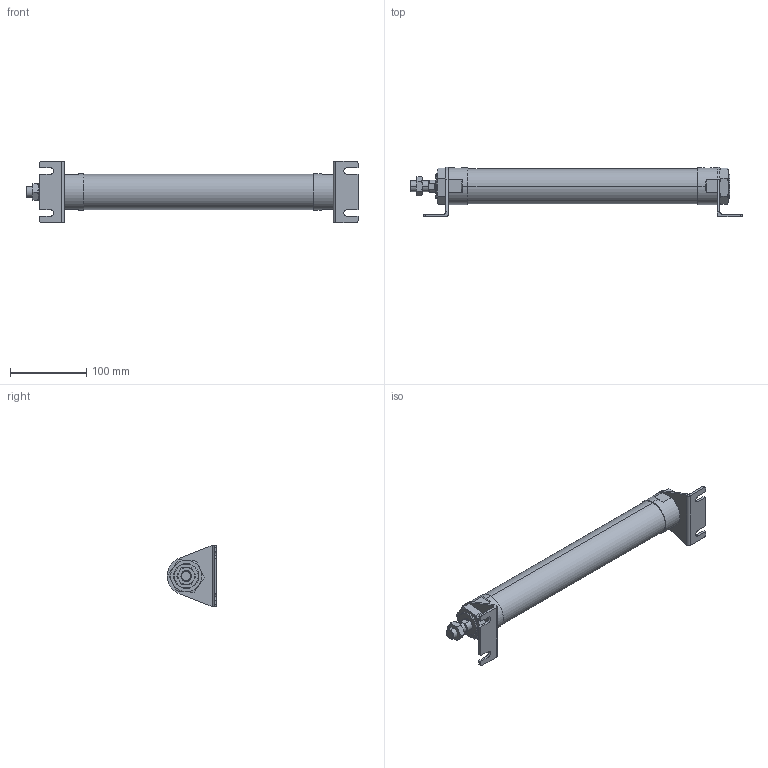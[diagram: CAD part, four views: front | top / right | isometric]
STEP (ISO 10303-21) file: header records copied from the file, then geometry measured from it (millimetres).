
FILE_DESCRIPTION (( 'STEP AP203' ), '1' );
FILE_NAME ('J#2-40-250-L.STEP', '2016-03-10T01:08:42', ( '' ), ( '' ), 'SwSTEP 2.0', 'SolidWorks 2014', '' );
FILE_SCHEMA (( 'CONFIG_CONTROL_DESIGN' ));
Length unit declared in the file: millimetre
Products named in the file (5): J#2-40-250; J#2-40-250-L; J#2-40-L
Assembly tree (6 placements, depth 2):
  J#2-40-250-L
    J#2-40-250
    (unnamed)
    (unnamed)  x2
    J#2-40-L  x2
Bounding box: 435.2 x 65 x 80 mm (x, y, z)
Volume: 672278.9 mm3; surface area: 92714.8 mm2
Topology: 6 solids, 6 shells, 170 faces, 404 edges, 249 vertices
Faces by surface type: plane 71, cylinder 48, torus 36, cone 15
Entity records: 4463 total; most frequent: CARTESIAN_POINT 1173, DIRECTION 578, ORIENTED_EDGE 558, EDGE_CURVE 279, AXIS2_PLACEMENT_3D 232, VERTEX_POINT 173, EDGE_LOOP 134, FACE_OUTER_BOUND 121
